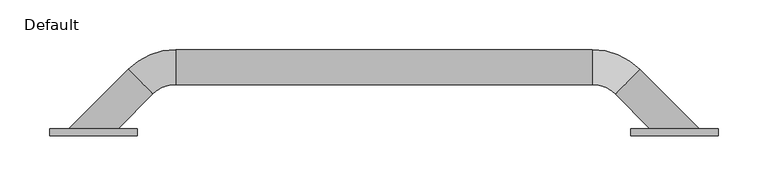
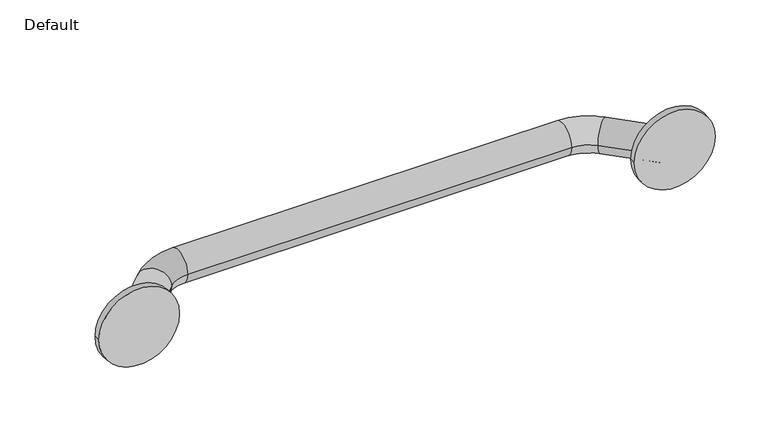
"""IFC4 building model written with IfcOpenShell, lengths in millimetres: proxy geometry, TSL_UK - TSLGR45 - Radius ADA Grab Bars - Nest - Shared : Default."""

from ifc_helpers import new_model, si_unit, point, frame, frame_2d, origin, place, context, project, spatial, circle_curve, ellipse_curve, trimmed, segment, composite_curve, outline, extrude, source, transform, mapped, element, save
from ifc_brep_helpers import plane_surface, cylinder_surface, revolved_surface, advanced_brep


def default_0786900b(model_context):
    return source(origin(), model_context, "Body", "SolidModel", [
        advanced_brep(
        [(-232.4721507, 42.2791677, 0.0371434), (-267.5513184, 7.2, 0.0371434), (-317.0483988, 7.2, -0.0915364), (-257.2206909, 67.0277079, -0.0915364), (-209.486733, 86.7997606, -0.0915364), (-209.486733, 51.8000394, 0.0371434), (209.486733, 86.7997606, -0.0915364), (209.486733, 51.8000394, 0.0371434), (257.2206909, 67.0277079, -0.0915364), (232.4721507, 42.2791677, 0.0371434), (317.0483988, 7.2, -0.0915364), (267.5513184, 7.2, 0.0371434)],
        [
            (0, 1),
            (1, 2, ellipse_curve(frame((-292.3, 7.2, 0.0), z_axis=(0.0, 1.0, 0.0), x_axis=(-1.0, 0.0, 0.0)), 24.7487373, 17.5)),
            (2, 3),
            (3, 0, circle_curve(frame((-244.8464915, 54.6535085, 0.0), z_axis=(-0.7071067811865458, -0.7071067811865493, 0.0), x_axis=(0.7071067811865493, -0.7071067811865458, 0.0)), 17.5)),
            (3, 4, circle_curve(frame((-209.486733, 19.29375, -0.0915364), z_axis=(0.0, 0.0, -1.0), x_axis=(-0.7071067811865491, 0.7071067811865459, 0.0)), 67.5060106)),
            (4, 5, circle_curve(frame((-209.486733, 69.3, 0.0), z_axis=(-1.0, 0.0, 0.0), x_axis=(0.0, -1.0, 0.0)), 17.5)),
            (5, 0, circle_curve(frame((-209.486733, 19.29375, 0.0371434), z_axis=(0.0, 0.0, 1.0), x_axis=(-0.7071067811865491, 0.7071067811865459, 0.0)), 32.5062894)),
            (4, 6),
            (6, 7, circle_curve(frame((209.486733, 69.3, 0.0), z_axis=(-1.0, 0.0, 0.0), x_axis=(0.0, -1.0, 0.0)), 17.5)),
            (7, 5),
            (6, 8, circle_curve(frame((209.486733, 19.29375, -0.0915364), z_axis=(0.0, 0.0, -1.0), x_axis=(0.0, 1.0, 0.0)), 67.5060106)),
            (8, 9, circle_curve(frame((244.8464915, 54.6535085, 0.0), z_axis=(-0.7071067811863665, 0.7071067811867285, 0.0), x_axis=(-0.7071067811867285, -0.7071067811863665, 0.0)), 17.5)),
            (9, 7, circle_curve(frame((209.486733, 19.29375, 0.0371434), z_axis=(0.0, 0.0, 1.0), x_axis=(0.0, 1.0, 0.0)), 32.5062894)),
            (8, 10),
            (10, 11, ellipse_curve(frame((292.3, 7.2, 0.0), z_axis=(0.0, 1.0, 0.0), x_axis=(-1.0, 0.0, 0.0)), 24.7487373, 17.5)),
            (11, 9),
            (1, 2, ellipse_curve(frame((-292.3, 7.2, 0.0), z_axis=(0.0, -1.0, 0.0), x_axis=(-1.0, 0.0, 0.0)), 24.7487373, 17.5)),
            (10, 11, ellipse_curve(frame((292.3, 7.2, 0.0), z_axis=(0.0, -1.0, 0.0), x_axis=(-1.0, 0.0, 0.0)), 24.7487373, 17.5)),
            (0, 3, circle_curve(frame((-244.8464915, 54.6535085, 0.0), z_axis=(-0.7071067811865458, -0.7071067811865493, 0.0), x_axis=(0.7071067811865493, -0.7071067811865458, 0.0)), 17.5)),
            (5, 4, circle_curve(frame((-209.486733, 69.3, 0.0), z_axis=(-1.0, 0.0, 0.0), x_axis=(0.0, -1.0, 0.0)), 17.5)),
            (7, 6, circle_curve(frame((209.486733, 69.3, 0.0), z_axis=(-1.0, 0.0, 0.0), x_axis=(0.0, -1.0, 0.0)), 17.5)),
            (9, 8, circle_curve(frame((244.8464915, 54.6535085, 0.0), z_axis=(-0.7071067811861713, 0.7071067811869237, 0.0), x_axis=(-0.7071067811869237, -0.7071067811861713, 0.0)), 17.5)),
        ],
        [
            cylinder_surface(frame((-368.8, -69.3, 0.0), z_axis=(-0.7071067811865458, -0.7071067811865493, 0.0), x_axis=(0.7071067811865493, -0.7071067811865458, 0.0)), 17.5),
            revolved_surface(trimmed(ellipse_curve(frame((-244.8464915, 54.6535085, 0.0), z_axis=(0.7071067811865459, 0.7071067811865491, 0.0), x_axis=(0.7071067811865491, -0.7071067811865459, 0.0)), 17.5, 17.5), [point((-232.4721507, 42.2791677, 0.0371434))], [point((-257.2206909, 67.0277079, -0.0915364))], True, "CARTESIAN"), (-209.486733, 19.29375, 0.0), (0.0, 0.0, 1.0)),
            cylinder_surface(frame((-209.486733, 69.3, 0.0), z_axis=(-1.0, 0.0, 0.0), x_axis=(0.0, -1.0, 0.0)), 17.5),
            revolved_surface(trimmed(ellipse_curve(frame((209.486733, 69.3, 0.0), z_axis=(1.0, 0.0, 0.0), x_axis=(0.0, -1.0, 0.0)), 17.5, 17.5), [point((209.486733, 51.8000394, 0.0371434))], [point((209.486733, 86.7997606, -0.0915364))], True, "CARTESIAN"), (209.486733, 19.29375, 0.0), (0.0, 0.0, 1.0)),
            cylinder_surface(frame((244.8464915, 54.6535085, 0.0), z_axis=(-0.7071067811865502, 0.7071067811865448, 0.0), x_axis=(-0.7071067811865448, -0.7071067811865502, 0.0)), 17.5),
            plane_surface(frame((-438.1, 7.2, 44.2), z_axis=(0.0, -1.0, 0.0), x_axis=(0.0, 0.0, -1.0))),
            revolved_surface(trimmed(ellipse_curve(frame((-244.8464915, 54.6535085, 0.0), z_axis=(0.7071067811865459, 0.7071067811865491, 0.0), x_axis=(0.7071067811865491, -0.7071067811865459, 0.0)), 17.5, 17.5), [point((-257.2206909, 67.0277079, -0.0915364))], [point((-232.4721507, 42.2791677, 0.0371434))], True, "CARTESIAN"), (-209.486733, 19.29375, 0.0), (0.0, 0.0, 1.0)),
            revolved_surface(trimmed(ellipse_curve(frame((209.486733, 69.3, 0.0), z_axis=(1.0, 0.0, 0.0), x_axis=(0.0, -1.0, 0.0)), 17.5, 17.5), [point((209.486733, 86.7997606, -0.0915364))], [point((209.486733, 51.8000394, 0.0371434))], True, "CARTESIAN"), (209.486733, 19.29375, 0.0), (0.0, 0.0, 1.0)),
        ],
        [
            (0, [[1, 2, 3, 4]]),
            (1, [[5, 6, 7, -4]]),
            (2, [[8, 9, 10, -6]]),
            (3, [[11, 12, 13, -9]]),
            (4, [[14, 15, 16, -12]]),
            (5, [[17, -2]]),
            (5, [[18, -15]]),
            (0, [[-3, -17, -1, 19]]),
            (6, [[-19, -7, 20, -5]]),
            (2, [[21, -8, -20, -10]]),
            (7, [[-21, -13, 22, -11]]),
            (4, [[-16, -18, -14, -22]]),
        ],
    ),
        extrude(outline(composite_curve([segment(trimmed(circle_curve(frame_2d((0.0, 292.3)), 44.0), [point((0.0, 248.3))], [point((0.0, 336.3))], False, "CARTESIAN"), True, "CONTINUOUS"), segment(trimmed(circle_curve(frame_2d((0.0, 292.3)), 44.0), [point((0.0, 336.3))], [point((0.0, 248.3))], False, "CARTESIAN"), True, "CONTINUOUS")], self_intersect=False)), frame((0.0, 0.0, 0.0), z_axis=(0.0, 1.0, 0.0), x_axis=(0.0, 0.0, 1.0)), (0.0, 0.0, 1.0), 7.2),
        extrude(outline(composite_curve([segment(trimmed(circle_curve(frame_2d((0.0, -292.3)), 44.0), [point((0.0, -336.3))], [point((0.0, -248.3))], False, "CARTESIAN"), True, "CONTINUOUS"), segment(trimmed(circle_curve(frame_2d((0.0, -292.3)), 44.0), [point((0.0, -248.3))], [point((0.0, -336.3))], False, "CARTESIAN"), True, "CONTINUOUS")], self_intersect=False)), frame((0.0, 0.0, 0.0), z_axis=(0.0, 1.0, 0.0), x_axis=(0.0, 0.0, 1.0)), (0.0, 0.0, 1.0), 7.2),
    ])


if __name__ == "__main__":
    model = new_model("IFC4")
    model_context = context("Model", 3, world=origin())
    ifc_project = project(units=[si_unit("LENGTHUNIT", "METRE", prefix="MILLI")], contexts=[model_context])
    site = spatial("IfcSite", under=ifc_project)
    building = spatial("IfcBuilding", under=site)
    placement = place(None, origin())
    default_shape = default_0786900b(model_context)
    element("IfcBuildingElementProxy", 1, Name="TSL_UK - TSLGR45 - Radius ADA Grab Bars - Nest - Shared : Default", ObjectType="TSL_UK - TSLGR45 - Radius ADA Grab Bars - Nest - Shared : Default", at=placement, inside=building, context=model_context, shape_type="MappedRepresentation", body=[
        mapped(default_shape, transform((0.0, 0.0, 0.0), x_axis=(1.0, 0.0, 0.0), y_axis=(0.0, 1.0, 0.0), z_axis=(0.0, 0.0, 1.0))),
    ])
    save(model, "model.ifc")
